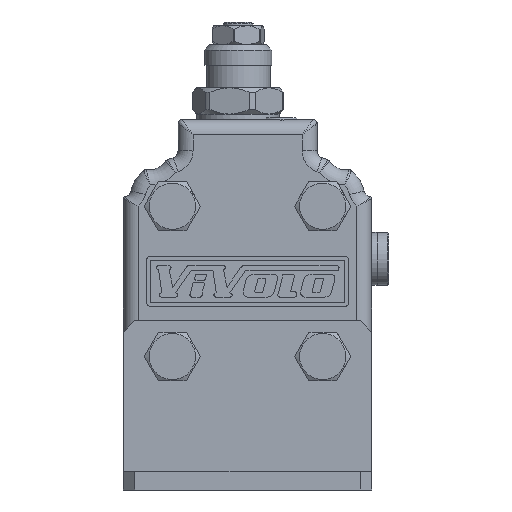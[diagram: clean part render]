
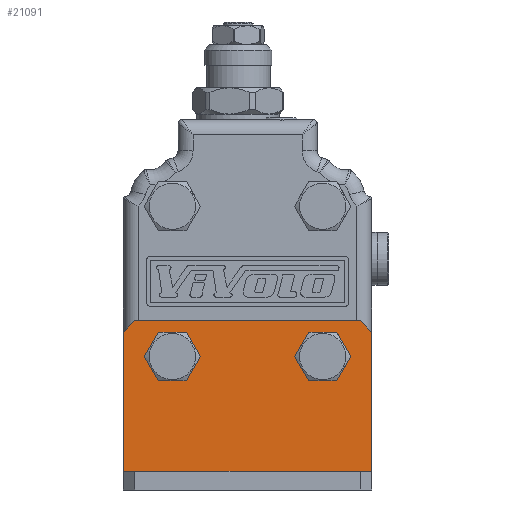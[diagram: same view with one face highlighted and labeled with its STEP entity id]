
A CAD part, front view. The second image highlights one B-rep face of the part: STEP entity #21091.
In plain terms, the highlighted planar face has unit normal (0, -1, 0).
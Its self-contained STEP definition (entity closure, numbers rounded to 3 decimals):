
#913=CIRCLE('',#22104,6.);
#914=CIRCLE('',#22106,6.);
#2811=ORIENTED_EDGE('',*,*,#6534,.T.);
#2812=ORIENTED_EDGE('',*,*,#6533,.T.);
#2813=ORIENTED_EDGE('',*,*,#6628,.F.);
#2814=ORIENTED_EDGE('',*,*,#6586,.T.);
#2815=ORIENTED_EDGE('',*,*,#6629,.F.);
#2816=ORIENTED_EDGE('',*,*,#6630,.F.);
#2817=ORIENTED_EDGE('',*,*,#6631,.F.);
#2818=ORIENTED_EDGE('',*,*,#6632,.F.);
#6533=EDGE_CURVE('',#8569,#8569,#913,.T.);
#6534=EDGE_CURVE('',#8570,#8570,#914,.T.);
#6586=EDGE_CURVE('',#8600,#8601,#10024,.T.);
#6628=EDGE_CURVE('',#8600,#8629,#10043,.T.);
#6629=EDGE_CURVE('',#8630,#8601,#10044,.T.);
#6630=EDGE_CURVE('',#8631,#8630,#10045,.T.);
#6631=EDGE_CURVE('',#8632,#8631,#10046,.T.);
#6632=EDGE_CURVE('',#8629,#8632,#10047,.T.);
#8569=VERTEX_POINT('',#30975);
#8570=VERTEX_POINT('',#30978);
#8600=VERTEX_POINT('',#31085);
#8601=VERTEX_POINT('',#31086);
#8629=VERTEX_POINT('',#31567);
#8630=VERTEX_POINT('',#31569);
#8631=VERTEX_POINT('',#31571);
#8632=VERTEX_POINT('',#31573);
#10024=LINE('',#31084,#11277);
#10043=LINE('',#31566,#11296);
#10044=LINE('',#31568,#11297);
#10045=LINE('',#31570,#11298);
#10046=LINE('',#31572,#11299);
#10047=LINE('',#31574,#11300);
#11277=VECTOR('',#24591,1000.);
#11296=VECTOR('',#24662,1000.);
#11297=VECTOR('',#24663,1000.);
#11298=VECTOR('',#24664,1000.);
#11299=VECTOR('',#24665,1000.);
#11300=VECTOR('',#24666,1000.);
#12421=EDGE_LOOP('',(#2811));
#12422=EDGE_LOOP('',(#2812));
#12423=EDGE_LOOP('',(#2813,#2814,#2815,#2816,#2817,#2818));
#13438=FACE_BOUND('',#12421,.T.);
#13439=FACE_BOUND('',#12422,.T.);
#13440=FACE_BOUND('',#12423,.T.);
#14315=PLANE('',#22162);
#21091=ADVANCED_FACE('',(#13438,#13439,#13440),#14315,.F.);
#22104=AXIS2_PLACEMENT_3D('',#30974,#24479,#24480);
#22106=AXIS2_PLACEMENT_3D('',#30977,#24483,#24484);
#22162=AXIS2_PLACEMENT_3D('',#31565,#24660,#24661);
#24479=DIRECTION('',(0.,1.,0.));
#24480=DIRECTION('',(1.,0.,0.));
#24483=DIRECTION('',(0.,1.,0.));
#24484=DIRECTION('',(1.,0.,0.));
#24591=DIRECTION('',(1.,0.,0.));
#24660=DIRECTION('',(0.,1.,0.));
#24661=DIRECTION('',(0.,0.,1.));
#24662=DIRECTION('',(0.,0.,1.));
#24663=DIRECTION('',(0.,0.,-1.));
#24664=DIRECTION('',(0.707,0.,-0.707));
#24665=DIRECTION('',(1.,0.,0.));
#24666=DIRECTION('',(0.707,0.,0.707));
#30974=CARTESIAN_POINT('',(20.,-5.,-20.));
#30975=CARTESIAN_POINT('',(26.,-5.,-20.));
#30977=CARTESIAN_POINT('',(-20.,-5.,-20.));
#30978=CARTESIAN_POINT('',(-14.,-5.,-20.));
#31084=CARTESIAN_POINT('',(33.,-5.,-50.5));
#31085=CARTESIAN_POINT('',(-33.,-5.,-50.5));
#31086=CARTESIAN_POINT('',(33.,-5.,-50.5));
#31565=CARTESIAN_POINT('',(33.,-5.,-55.5));
#31566=CARTESIAN_POINT('',(-33.,-5.,-55.5));
#31567=CARTESIAN_POINT('',(-33.,-5.,-13.5));
#31568=CARTESIAN_POINT('',(33.,-5.,-13.5));
#31569=CARTESIAN_POINT('',(33.,-5.,-13.5));
#31570=CARTESIAN_POINT('',(30.,-5.,-10.5));
#31571=CARTESIAN_POINT('',(30.,-5.,-10.5));
#31572=CARTESIAN_POINT('',(30.,-5.,-10.5));
#31573=CARTESIAN_POINT('',(-30.,-5.,-10.5));
#31574=CARTESIAN_POINT('',(-33.,-5.,-13.5));
